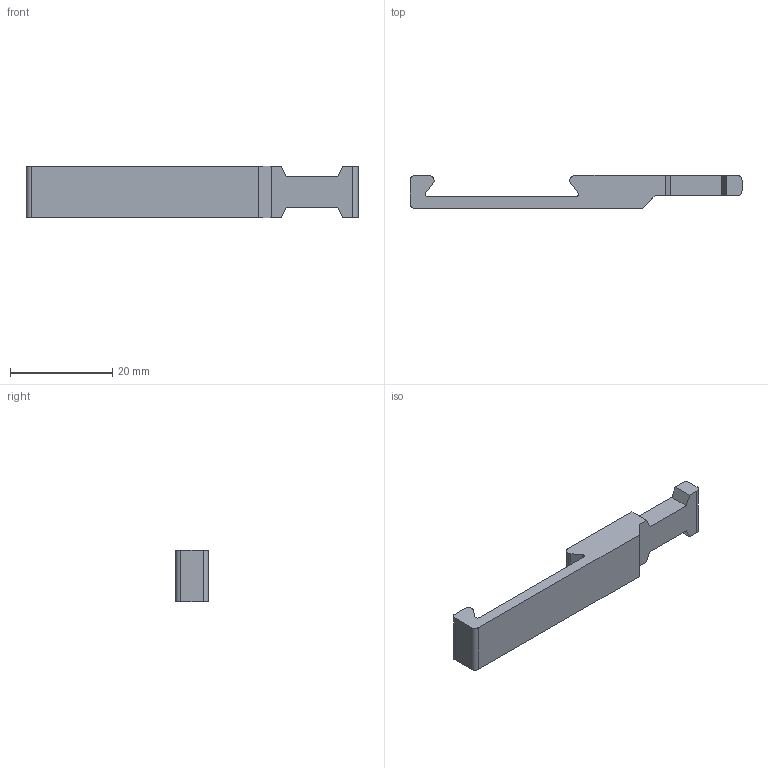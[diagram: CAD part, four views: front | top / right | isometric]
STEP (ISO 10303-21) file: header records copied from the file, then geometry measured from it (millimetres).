
FILE_DESCRIPTION((''),'2;1');
FILE_NAME('T:\technik\3D\STEP\KOLIBRI\KOLIBRI_40_062_2\HORNSTEG HS65.stp','2009-08-07T09:07:22',('UebbingXP'),(''),'Autodesk Inventor 10','Autodesk Inventor 10','');
FILE_SCHEMA(('AUTOMOTIVE_DESIGN { 1 0 10303 214 1 1 1 1 }'));
Length unit declared in the file: millimetre
Products named in the file (1): HORNSTEG HS65 
Bounding box: 65.01 x 6.5 x 10 mm (x, y, z)
Volume: 2404.7 mm3; surface area: 1962.8 mm2
Topology: 1 solids, 1 shells, 28 faces, 78 edges, 52 vertices
Faces by surface type: plane 20, cylinder 8
Entity records: 921 total; most frequent: CARTESIAN_POINT 159, ORIENTED_EDGE 156, DIRECTION 152, EDGE_CURVE 78, VECTOR 62, LINE 62, VERTEX_POINT 52, AXIS2_PLACEMENT_3D 45
